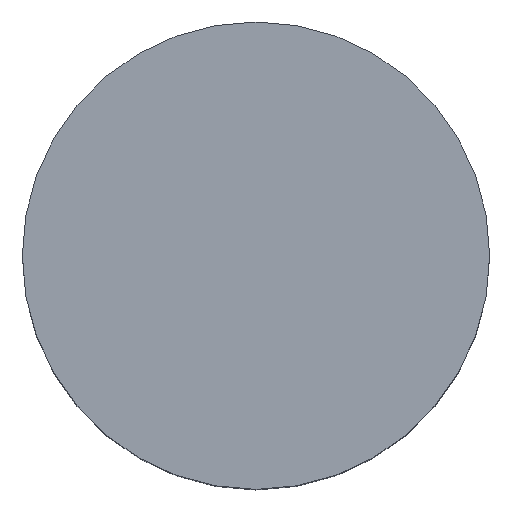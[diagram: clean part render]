
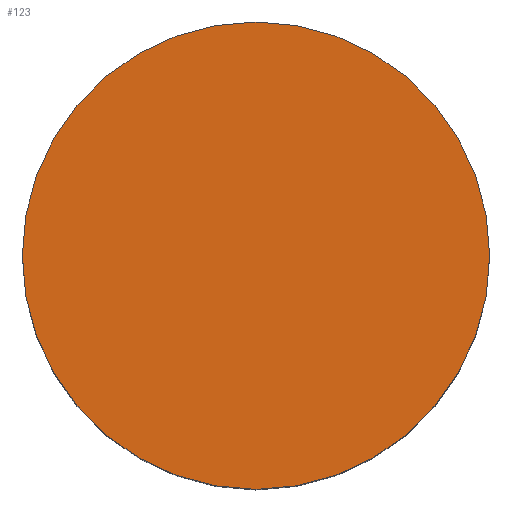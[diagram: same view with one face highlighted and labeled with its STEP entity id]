
A CAD part, top view. The second image highlights one B-rep face of the part: STEP entity #123.
In plain terms, the highlighted planar face has unit normal (0, 0, 1).
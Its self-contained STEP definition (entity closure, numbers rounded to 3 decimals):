
#39 = EDGE_CURVE('',#40,#40,#42,.T.);
#40 = VERTEX_POINT('',#41);
#41 = CARTESIAN_POINT('',(39.,0.,29.));
#42 = SURFACE_CURVE('',#43,(#48,#60),.PCURVE_S1.);
#43 = CIRCLE('',#44,39.);
#44 = AXIS2_PLACEMENT_3D('',#45,#46,#47);
#45 = CARTESIAN_POINT('',(0.,0.,29.));
#46 = DIRECTION('',(0.,0.,1.));
#47 = DIRECTION('',(1.,0.,-0.));
#48 = PCURVE('',#49,#54);
#49 = CYLINDRICAL_SURFACE('',#50,39.);
#50 = AXIS2_PLACEMENT_3D('',#51,#52,#53);
#51 = CARTESIAN_POINT('',(0.,0.,-29.));
#52 = DIRECTION('',(0.,0.,1.));
#53 = DIRECTION('',(1.,0.,-0.));
#54 = DEFINITIONAL_REPRESENTATION('',(#55),#59);
#55 = LINE('',#56,#57);
#56 = CARTESIAN_POINT('',(0.,58.));
#57 = VECTOR('',#58,1.);
#58 = DIRECTION('',(1.,0.));
#59 = ( GEOMETRIC_REPRESENTATION_CONTEXT(2) 
PARAMETRIC_REPRESENTATION_CONTEXT() REPRESENTATION_CONTEXT('2D SPACE',''
  ) );
#60 = PCURVE('',#61,#66);
#61 = PLANE('',#62);
#62 = AXIS2_PLACEMENT_3D('',#63,#64,#65);
#63 = CARTESIAN_POINT('',(0.,0.,29.));
#64 = DIRECTION('',(0.,0.,1.));
#65 = DIRECTION('',(1.,0.,-0.));
#66 = DEFINITIONAL_REPRESENTATION('',(#67),#71);
#67 = CIRCLE('',#68,39.);
#68 = AXIS2_PLACEMENT_2D('',#69,#70);
#69 = CARTESIAN_POINT('',(0.,0.));
#70 = DIRECTION('',(1.,0.));
#71 = ( GEOMETRIC_REPRESENTATION_CONTEXT(2) 
PARAMETRIC_REPRESENTATION_CONTEXT() REPRESENTATION_CONTEXT('2D SPACE',''
  ) );
#123 = ADVANCED_FACE('',(#124),#61,.T.);
#124 = FACE_BOUND('',#125,.T.);
#125 = EDGE_LOOP('',(#126));
#126 = ORIENTED_EDGE('',*,*,#39,.T.);
